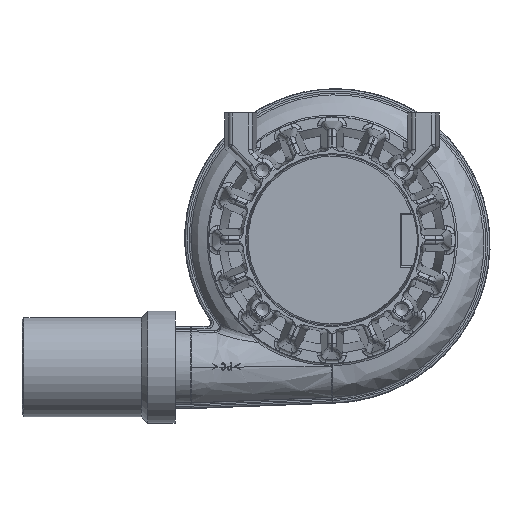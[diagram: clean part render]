
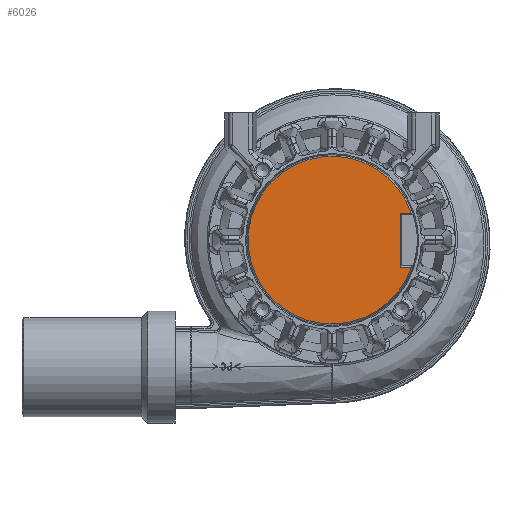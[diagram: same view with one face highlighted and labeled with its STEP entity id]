
A CAD part, front view. The second image highlights one B-rep face of the part: STEP entity #6026.
In plain terms, the highlighted planar face has unit normal (0, -1, 0).
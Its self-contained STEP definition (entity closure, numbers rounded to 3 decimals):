
#1033=FACE_OUTER_BOUND('',#7579,.T.);
#2004=LINE('',#38674,#2781);
#2007=LINE('',#38683,#2784);
#2009=LINE('',#38689,#2786);
#2781=VECTOR('',#22270,1.);
#2784=VECTOR('',#22277,1.);
#2786=VECTOR('',#22283,1.);
#5014=PLANE('',#20239);
#6026=ADVANCED_FACE('',(#1033),#5014,.F.);
#7579=EDGE_LOOP('',(#10483,#10484,#10485,#10486));
#10483=ORIENTED_EDGE('',*,*,#17362,.T.);
#10484=ORIENTED_EDGE('',*,*,#17349,.T.);
#10485=ORIENTED_EDGE('',*,*,#17353,.T.);
#10486=ORIENTED_EDGE('',*,*,#17356,.T.);
#15109=VERTEX_POINT('',#38673);
#15110=VERTEX_POINT('',#38675);
#15113=VERTEX_POINT('',#38682);
#15114=VERTEX_POINT('',#38687);
#17349=EDGE_CURVE('',#15110,#15109,#2004,.T.);
#17353=EDGE_CURVE('',#15109,#15113,#2007,.T.);
#17356=EDGE_CURVE('',#15113,#15114,#2009,.T.);
#17362=EDGE_CURVE('',#15114,#15110,#19499,.T.);
#19499=CIRCLE('',#20237,21.098);
#20237=AXIS2_PLACEMENT_3D('',#38699,#22299,#22300);
#20239=AXIS2_PLACEMENT_3D('',#38701,#22303,#22304);
#22270=DIRECTION('',(-1.,0.,0.));
#22277=DIRECTION('',(0.,0.,1.));
#22283=DIRECTION('',(1.,0.,0.));
#22299=DIRECTION('',(0.,-1.,0.));
#22300=DIRECTION('',(0.,0.,-1.));
#22303=DIRECTION('',(0.,1.,0.));
#22304=DIRECTION('',(0.,0.,-1.));
#38673=CARTESIAN_POINT('',(100.563,-1.3,-46.654));
#38674=CARTESIAN_POINT('',(100.863,-1.3,-46.654));
#38675=CARTESIAN_POINT('',(103.335,-1.3,-46.654));
#38682=CARTESIAN_POINT('',(100.563,-1.3,-33.054));
#38683=CARTESIAN_POINT('',(100.563,-1.3,-33.354));
#38687=CARTESIAN_POINT('',(103.335,-1.3,-33.054));
#38689=CARTESIAN_POINT('',(103.435,-1.3,-33.054));
#38699=CARTESIAN_POINT('',(83.363,-1.3,-39.854));
#38701=CARTESIAN_POINT('',(83.363,-1.3,-39.854));
